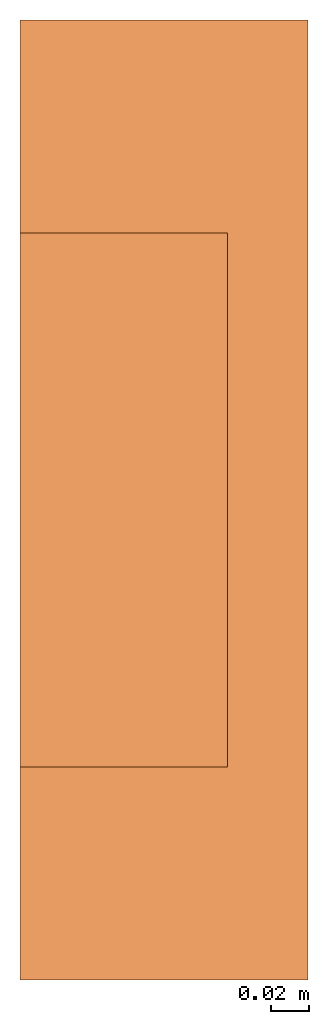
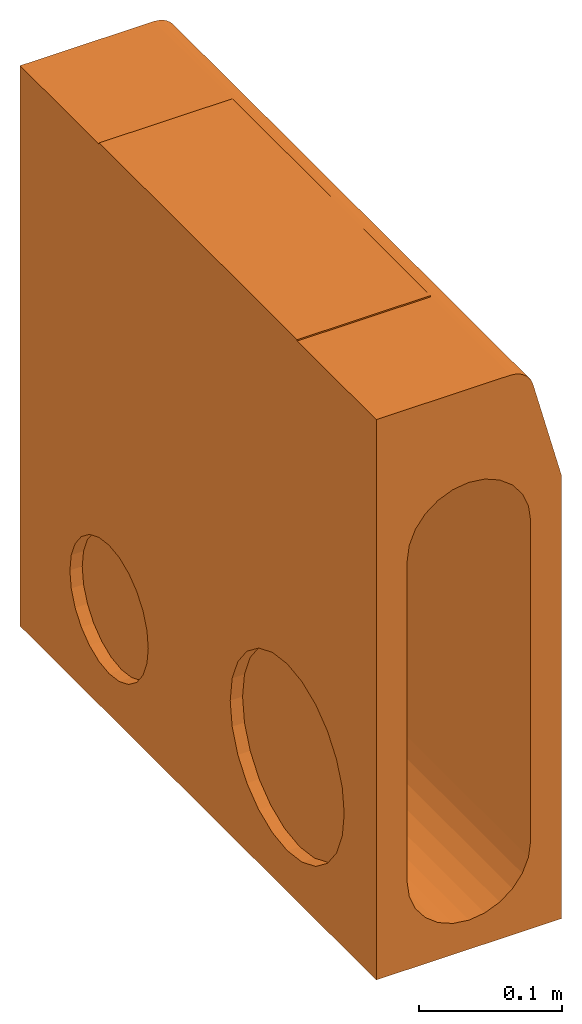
# One storey: 1 proxy.
"""IFC2X3 building model written with IfcOpenShell, lengths in millimetres."""

from ifc_helpers import new_model, entity, si_unit, converted_unit, direction, frame, origin, place, context, subcontext, project, spatial, faceted_brep, source, transform, mapped, material, material_list, element, save


model = new_model("IFC2X3")

# Units and contexts
model_context = context("Model", 3, precision=1e-06, world=origin(), true_north=direction((2.0, 6.12303176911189e-17, 1.0)))
context_of_model = context(None, 3, precision=1e-06, world=origin(), true_north=direction((2.0, 6.12303176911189e-17, 1.0)))
body_context = subcontext(model_context, "Body", "Model", "MODEL_VIEW")
ifc_project = project(units=[si_unit("LENGTHUNIT", "METRE", prefix="MILLI"), si_unit("AREAUNIT", "SQUARE_METRE", prefix="MILLI"), si_unit("VOLUMEUNIT", "CUBIC_METRE", prefix="MILLI"), converted_unit("PLANEANGLEUNIT", "DEGREE", entity("IfcRatioMeasure", 0.0174532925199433), si_unit("PLANEANGLEUNIT", "RADIAN"), dimensions=[0, 0, 0, 0, 0, 0, 0]), si_unit("TIMEUNIT", "SECOND")], contexts=[model_context, context_of_model])

# Site, building, storey
site_placement = place(None, origin())
site = spatial("IfcSite", under=ifc_project, at=site_placement, Name="Default", CompositionType="ELEMENT")
building_placement = place(site_placement, origin())
building = spatial("IfcBuilding", under=site, at=building_placement, CompositionType="ELEMENT")
storey_placement = place(building_placement, frame((0.0, 0.0, -300.0)))
storey = spatial("IfcBuildingStorey", under=building, at=storey_placement, Name="T.O. Fnd. Wall", CompositionType="ELEMENT", Elevation=-300.0)

# Proxy
ifc_material_1 = material(Name="ACO Polymer Concrete.")
ifc_material_2 = material(Name="Iron, Cast")
ifc_material_list = material_list([ifc_material_1, ifc_material_2])
shared_shape = source(origin(), body_context, "Body", "Brep", [
    faceted_brep([(65.1705684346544, 181.568542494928, -296.568542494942), (65.1705684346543, 194.282032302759, -280.0), (65.1705684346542, 202.274066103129, -260.70552360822), (65.1705684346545, 165.0, -309.282032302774), (65.1705684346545, 125.0, -320.0), (65.1705684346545, 145.705523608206, -317.274066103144), (65.1705684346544, 68.4314575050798, -296.568542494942), (65.1705684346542, 47.7259338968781, -260.70552360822), (65.1705684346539, 181.568542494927, -183.431457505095), (65.1705684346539, 55.7179676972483, -200.0), (65.1705684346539, 194.282032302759, -200.0), (65.170568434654, 202.274066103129, -219.294476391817), (65.1705684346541, 205.0, -240.0), (65.1705684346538, 165.0, -170.717967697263), (65.1705684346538, 145.705523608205, -162.725933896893), (65.1705684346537, 125.0, -160.0), (65.1705684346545, 85.0, -309.282032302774), (65.1705684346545, 104.294476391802, -317.274066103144), (65.1705684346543, 55.7179676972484, -280.0), (65.1705684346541, 45.0, -240.0), (65.170568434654, 47.7259338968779, -219.294476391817), (65.1705684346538, 104.294476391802, -162.725933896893), (65.1705684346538, 85.0, -170.717967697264), (65.1705684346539, 68.4314575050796, -183.431457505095), (-64.8294315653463, 181.568542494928, -183.431457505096), (-64.8294315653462, 194.282032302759, -200.0), (-64.8294315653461, 202.274066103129, -219.294476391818), (-64.8294315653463, 68.4314575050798, -183.431457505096), (-64.8294315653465, 125.0, -160.0), (-64.8294315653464, 145.705523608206, -162.725933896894), (-64.8294315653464, 165.0, -170.717967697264), (-64.8294315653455, 165.0, -309.282032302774), (-64.8294315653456, 68.4314575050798, -296.568542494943), (-64.8294315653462, 55.7179676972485, -200.0), (-64.8294315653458, 202.274066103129, -260.705523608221), (-64.8294315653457, 194.282032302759, -280.0), (-64.8294315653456, 181.568542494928, -296.568542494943), (-64.8294315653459, 205.0, -240.0), (-64.8294315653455, 145.705523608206, -317.274066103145), (-64.8294315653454, 125.0, -320.0), (-64.8294315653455, 104.294476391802, -317.274066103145), (-64.8294315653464, 85.0, -170.717967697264), (-64.8294315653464, 104.294476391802, -162.725933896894), (-64.8294315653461, 47.7259338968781, -219.294476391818), (-64.8294315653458, 47.7259338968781, -260.705523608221), (-64.8294315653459, 45.0, -240.0), (-64.8294315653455, 85.0, -309.282032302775), (-64.8294315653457, 55.7179676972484, -280.0), (-74.8294315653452, 0.0, -355.0), (-43.1307017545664, 0.0, -305.0), (-48.125722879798, 0.0, -292.940952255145), (-35.1847706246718, 0.0, -315.355339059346), (-49.8294315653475, 0.0, -280.0), (-49.8294315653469, 0.0, -5.0), (-74.8294315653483, 0.0, 125.0), (75.1705684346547, 0.0, -355.0), (13.1115206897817, 0.0, -328.296291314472), (0.170568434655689, 0.0, -330.0), (-24.8294315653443, 0.0, -323.301270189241), (-12.7703838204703, 0.0, -328.296291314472), (-48.1257228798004, 0.0, 7.94095225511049), (-43.1307017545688, 0.0, 20.0), (-35.1847706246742, 0.0, 30.3553390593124), (-24.8294315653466, 0.0, 38.3012701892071), (-12.7703838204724, 0.0, 43.2962913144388), (0.17056843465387, 0.0, 45.0), (33.7964364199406, 0.0, 125.0), (13.1115206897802, 0.0, 43.2962913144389), (52.1490271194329, 0.0, 110.917561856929), (35.5259074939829, 0.0, -315.355339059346), (25.1705684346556, 0.0, -323.30127018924), (43.4718386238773, 0.0, -305.0), (48.4668597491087, 0.0, -292.940952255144), (50.1705684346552, 0.0, -280.0), (75.1705684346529, 0.0, 25.0), (50.1705684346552, 0.0, -5.0), (48.4668597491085, 0.0, 7.94095225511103), (43.4718386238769, 0.0, 20.0), (43.2964364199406, 0.0, 122.454482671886), (38.7139982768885, 0.0, 124.352590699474), (47.231465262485, 0.0, 119.435028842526), (25.1705684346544, 0.0, 38.3012701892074), (35.5259074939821, 0.0, 30.3553390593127), (50.2509190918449, 0.0, 115.499999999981), (75.1705684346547, 500.0, -355.0), (48.4668597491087, 500.0, -292.940952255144), (50.1705684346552, 500.0, -280.0), (43.4718386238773, 500.0, -305.0), (75.1705684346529, 500.0, 25.0), (50.1705684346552, 500.0, -5.0), (25.1705684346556, 500.0, -323.30127018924), (35.5259074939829, 500.0, -315.355339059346), (48.4668597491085, 500.0, 7.94095225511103), (43.4718386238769, 500.0, 20.0), (13.1115206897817, 500.0, -328.296291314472), (50.2509190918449, 500.0, 115.499999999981), (52.1490271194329, 500.0, 110.917561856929), (33.7964364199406, 500.0, 125.0), (47.231465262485, 500.0, 119.435028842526), (35.5259074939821, 500.0, 30.3553390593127), (25.1705684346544, 500.0, 38.3012701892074), (13.1115206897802, 500.0, 43.2962913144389), (38.7139982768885, 500.0, 124.352590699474), (43.2964364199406, 500.0, 122.454482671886), (-12.7703838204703, 500.0, -328.296291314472), (0.170568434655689, 500.0, -330.0), (-74.8294315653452, 500.0, -355.0), (-24.8294315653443, 500.0, -323.301270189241), (-35.1847706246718, 500.0, -315.355339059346), (-43.1307017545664, 500.0, -305.0), (-48.125722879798, 500.0, -292.940952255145), (-49.8294315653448, 500.0, -280.0), (-49.8294315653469, 500.0, -5.0), (-74.8294315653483, 500.0, 125.0), (-12.7703838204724, 500.0, 43.2962913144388), (-24.8294315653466, 500.0, 38.3012701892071), (0.17056843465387, 500.0, 45.0), (-48.1257228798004, 500.0, 7.94095225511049), (-35.1847706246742, 500.0, 30.3553390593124), (-43.1307017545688, 500.0, 20.0), (-15.2350474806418, 196.874079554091, -355.0), (-1.0, 195.0, -355.0), (-28.5000000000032, 202.368602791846, -355.0), (-54.1259204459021, 235.764952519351, -355.0), (-48.6313972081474, 222.49999999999, -355.0), (-39.8908729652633, 211.10912703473, -355.0), (-56.0, 250.0, -355.0), (13.2350474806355, 196.874079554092, -355.0), (26.4999999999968, 202.368602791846, -355.0), (37.8908729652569, 211.10912703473, -355.0), (46.6313972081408, 222.49999999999, -355.0), (52.1259204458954, 235.764952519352, -355.0), (54.0, 250.0, -355.0), (-54.1259204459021, 264.235047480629, -355.0), (-48.6313972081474, 277.499999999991, -355.0), (-39.8908729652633, 288.890872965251, -355.0), (-28.5000000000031, 297.631397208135, -355.0), (-15.2350474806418, 303.125920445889, -355.0), (-1.0, 305.0, -355.0), (46.6313972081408, 277.49999999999, -355.0), (37.8908729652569, 288.89087296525, -355.0), (52.1259204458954, 264.235047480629, -355.0), (13.2350474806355, 303.125920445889, -355.0), (26.4999999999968, 297.631397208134, -355.0), (75.1705684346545, 85.0, -309.282032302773), (75.1705684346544, 68.4314575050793, -296.568542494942), (75.1705684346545, 104.294476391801, -317.274066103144), (75.1705684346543, 55.7179676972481, -280.0), (75.1705684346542, 47.7259338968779, -260.70552360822), (75.1705684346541, 45.0, -240.0), (75.170568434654, 47.7259338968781, -219.294476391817), (75.1705684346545, 125.0, -320.0), (75.1705684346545, 145.705523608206, -317.274066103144), (75.1705684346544, 181.568542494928, -296.568542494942), (75.1705684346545, 165.0, -309.282032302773), (75.1705684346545, 336.109127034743, -303.890872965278), (75.1705684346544, 327.368602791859, -292.500000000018), (75.1705684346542, 202.274066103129, -260.70552360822), (75.1705684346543, 194.282032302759, -280.0), (75.1705684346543, 321.874079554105, -279.235047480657), (75.1705684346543, 320.0, -265.0), (75.1705684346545, 347.500000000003, -312.631397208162), (75.1705684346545, 360.764952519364, -318.125920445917), (75.1705684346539, 55.7179676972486, -200.0), (75.1705684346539, 68.4314575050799, -183.431457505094), (75.1705684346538, 85.0, -170.717967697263), (75.1705684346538, 104.294476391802, -162.725933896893), (75.1705684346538, 125.0, -160.0), (75.170568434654, 202.274066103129, -219.294476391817), (75.1705684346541, 205.0, -240.0), (75.1705684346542, 321.874079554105, -250.764952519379), (75.1705684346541, 327.368602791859, -237.500000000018), (75.1705684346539, 194.282032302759, -200.0), (75.1705684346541, 336.109127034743, -226.109127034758), (75.170568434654, 347.500000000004, -217.368602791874), (75.1705684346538, 145.705523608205, -162.725933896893), (75.1705684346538, 165.0, -170.717967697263), (75.1705684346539, 181.568542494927, -183.431457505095), (75.170568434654, 360.764952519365, -211.87407955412), (75.1705684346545, 375.0, -320.0), (75.1705684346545, 389.235047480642, -318.125920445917), (75.1705684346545, 402.500000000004, -312.631397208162), (75.1705684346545, 413.890872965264, -303.890872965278), (75.1705684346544, 422.631397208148, -292.500000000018), (75.1705684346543, 430.0, -265.0), (75.1705684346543, 428.125920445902, -279.235047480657), (75.1705684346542, 428.125920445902, -250.76495251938), (75.1705684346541, 422.631397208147, -237.500000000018), (75.1705684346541, 413.890872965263, -226.109127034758), (75.170568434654, 375.0, -210.0), (75.170568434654, 389.235047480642, -211.87407955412), (75.170568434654, 402.500000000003, -217.368602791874), (33.7964364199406, 152.199845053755, 125.0), (-74.8294315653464, 104.294476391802, -162.725933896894), (-74.8294315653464, 85.0, -170.717967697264), (-74.8294315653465, 125.0, -160.0), (-74.8294315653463, 68.4314575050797, -183.431457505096), (-74.8294315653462, 55.7179676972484, -200.0), (-74.8294315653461, 47.7259338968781, -219.294476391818), (-74.8294315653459, 45.0, -240.0), (-74.8294315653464, 145.705523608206, -162.725933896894), (-74.8294315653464, 165.0, -170.717967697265), (-74.8294315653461, 347.500000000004, -217.368602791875), (-74.8294315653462, 194.282032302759, -200.0), (-74.8294315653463, 181.568542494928, -183.431457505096), (-74.8294315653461, 360.764952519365, -211.87407955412), (-74.8294315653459, 205.0, -240.0), (-74.8294315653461, 202.274066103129, -219.294476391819), (-74.8294315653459, 321.874079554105, -250.76495251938), (-74.8294315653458, 320.0, -265.0), (-74.829431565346, 336.109127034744, -226.109127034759), (-74.8294315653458, 47.7259338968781, -260.705523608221), (-74.8294315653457, 55.7179676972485, -280.0), (-74.8294315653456, 68.4314575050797, -296.568542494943), (-74.8294315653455, 85.0, -309.282032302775), (-74.8294315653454, 104.294476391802, -317.274066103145), (-74.8294315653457, 194.282032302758, -280.0), (-74.8294315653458, 202.274066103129, -260.705523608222), (-74.8294315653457, 321.874079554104, -279.235047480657), (-74.8294315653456, 327.368602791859, -292.500000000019), (-74.8294315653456, 181.568542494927, -296.568542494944), (-74.8294315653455, 336.109127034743, -303.890872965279), (-74.8294315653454, 125.0, -320.0), (-74.8294315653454, 145.705523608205, -317.274066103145), (-74.8294315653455, 165.0, -309.282032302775), (-74.8294315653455, 347.500000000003, -312.631397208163), (-74.8294315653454, 360.764952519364, -318.125920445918), (-74.829431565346, 327.36860279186, -237.500000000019), (-74.8294315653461, 375.0, -210.0), (-74.8294315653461, 389.235047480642, -211.874079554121), (-74.8294315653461, 402.500000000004, -217.368602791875), (-74.829431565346, 413.890872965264, -226.109127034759), (-74.8294315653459, 428.125920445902, -250.764952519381), (-74.829431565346, 422.631397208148, -237.50000000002), (-74.8294315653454, 375.0, -320.0), (-74.8294315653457, 428.125920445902, -279.235047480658), (-74.8294315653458, 430.0, -265.0), (-74.8294315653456, 422.631397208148, -292.500000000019), (-74.8294315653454, 389.235047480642, -318.125920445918), (-74.8294315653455, 402.500000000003, -312.631397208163), (-74.8294315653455, 413.890872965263, -303.890872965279), (52.1490271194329, 423.900064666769, 110.917561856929), (45.3629035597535, 383.807890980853, 121.073713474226), (48.8701498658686, 348.576324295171, 117.566467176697), (50.8400506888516, 104.875634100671, 114.397333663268), (48.8701498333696, 151.423670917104, 117.566467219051), (41.0674216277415, 348.576326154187, 123.553711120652), (37.1954799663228, 364.149902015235, 124.693488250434), (37.8149788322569, 238.971100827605, 124.570172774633), (50.6937705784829, 238.971095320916, 114.687928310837), (52.1490271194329, 304.399745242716, 110.917561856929), (50.97322225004, 364.149900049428, 114.121454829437), (45.3629035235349, 116.192108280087, 121.073713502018), (48.1657221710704, 249.999998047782, 118.430753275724), (42.0845772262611, 250.0, 123.096979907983), (45.3629035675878, 249.999999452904, 121.073713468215), (33.7964364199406, 423.90007747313, 125.0), (52.1490271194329, 152.19987262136, 110.917561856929), (41.0674215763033, 151.423674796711, 123.553711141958), (33.7964364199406, 304.399690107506, 125.0), (37.4964258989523, 104.875635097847, 124.636257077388), (65.1705684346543, 428.125920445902, -279.235047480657), (65.1705684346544, 336.109127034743, -303.890872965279), (65.1705684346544, 422.631397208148, -292.500000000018), (65.1705684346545, 402.500000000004, -312.631397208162), (65.1705684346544, 413.890872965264, -303.890872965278), (65.1705684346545, 375.0, -320.0), (65.1705684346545, 389.235047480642, -318.125920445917), (65.1705684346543, 430.0, -265.0), (65.1705684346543, 320.0, -265.0), (65.1705684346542, 428.125920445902, -250.76495251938), (65.1705684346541, 422.631397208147, -237.500000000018), (65.1705684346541, 413.890872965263, -226.109127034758), (65.170568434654, 402.500000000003, -217.368602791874), (65.170568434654, 375.0, -210.0), (65.170568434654, 389.235047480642, -211.87407955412), (65.1705684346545, 347.500000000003, -312.631397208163), (65.1705684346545, 360.764952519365, -318.125920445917), (65.1705684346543, 321.874079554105, -279.235047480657), (65.1705684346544, 327.368602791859, -292.500000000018), (65.170568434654, 347.500000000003, -217.368602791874), (65.170568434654, 360.764952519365, -211.87407955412), (65.1705684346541, 336.109127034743, -226.109127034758), (65.1705684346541, 327.368602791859, -237.500000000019), (65.1705684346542, 321.874079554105, -250.76495251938), (-64.829431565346, 422.631397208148, -237.500000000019), (-64.8294315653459, 428.125920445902, -250.764952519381), (-64.8294315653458, 430.0, -265.0), (-64.829431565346, 413.890872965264, -226.109127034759), (-64.8294315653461, 375.0, -210.0), (-64.8294315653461, 389.235047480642, -211.874079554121), (-64.8294315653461, 402.500000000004, -217.368602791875), (-64.8294315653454, 375.0, -320.0), (-64.8294315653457, 428.125920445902, -279.235047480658), (-64.8294315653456, 422.631397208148, -292.500000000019), (-64.8294315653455, 413.890872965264, -303.890872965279), (-64.8294315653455, 402.500000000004, -312.631397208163), (-64.8294315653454, 389.235047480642, -318.125920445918), (-64.8294315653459, 321.874079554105, -250.764952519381), (-64.8294315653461, 347.500000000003, -217.368602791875), (-64.8294315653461, 360.764952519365, -211.874079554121), (-64.8294315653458, 320.0, -265.0), (-64.829431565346, 327.368602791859, -237.500000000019), (-64.829431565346, 336.109127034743, -226.109127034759), (-64.8294315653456, 327.368602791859, -292.500000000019), (-64.8294315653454, 360.764952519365, -318.125920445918), (-64.8294315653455, 347.500000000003, -312.631397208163), (-64.8294315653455, 336.109127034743, -303.890872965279), (-64.8294315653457, 321.874079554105, -279.235047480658), (-15.2350474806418, 303.125920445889, -345.0), (-1.0, 305.0, -345.0), (-28.5000000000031, 297.631397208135, -345.0), (-39.8908729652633, 288.890872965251, -345.0), (46.6313972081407, 222.49999999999, -345.0), (-48.6313972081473, 277.499999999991, -345.0), (-56.0, 250.0, -345.0), (-54.125920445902, 264.235047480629, -345.0), (26.4999999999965, 202.368602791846, -345.0), (46.6313972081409, 277.49999999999, -345.0), (13.2350474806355, 303.125920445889, -345.0), (26.4999999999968, 297.631397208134, -345.0), (37.8908729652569, 288.89087296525, -345.0), (52.1259204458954, 264.235047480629, -345.0), (54.0, 250.0, -345.0), (-48.6313972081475, 222.49999999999, -345.0), (-54.1259204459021, 235.764952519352, -345.0), (-28.5000000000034, 202.368602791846, -345.0), (-39.8908729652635, 211.10912703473, -345.0), (-15.2350474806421, 196.874079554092, -345.0), (13.2350474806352, 196.874079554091, -345.0), (-1.0, 195.0, -345.0), (52.1259204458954, 235.764952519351, -345.0), (37.8908729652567, 211.10912703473, -345.0)], [[[0, 1, 2, 3]], [[4, 5, 3, 6]], [[6, 3, 2, 7]], [[2, 8, 9, 7]], [[10, 8, 11]], [[2, 12, 11, 8]], [[13, 14, 15, 8]], [[4, 6, 16, 17]], [[18, 6, 7]], [[19, 7, 9, 20]], [[15, 21, 22, 9]], [[23, 9, 22]], [[15, 9, 8]], [[24, 25, 26, 27]], [[28, 29, 30, 24]], [[26, 31, 32, 33]], [[31, 34, 35, 36]], [[26, 37, 34, 31]], [[31, 38, 39, 40]], [[24, 27, 28]], [[27, 41, 42, 28]], [[33, 27, 26]], [[43, 33, 44, 45]], [[40, 46, 32, 31]], [[32, 47, 44, 33]], [[48, 49, 50]], [[49, 48, 51]], [[50, 52, 48]], [[48, 52, 53, 54]], [[55, 56, 57]], [[58, 51, 48]], [[59, 58, 48]], [[57, 59, 48, 55]], [[53, 60, 54]], [[54, 61, 62]], [[61, 54, 60]], [[62, 63, 54]], [[64, 65, 66, 54]], [[63, 64, 54]], [[66, 65, 67, 68]], [[69, 70, 55]], [[69, 55, 71]], [[72, 55, 73]], [[55, 72, 71]], [[74, 75, 73, 55]], [[76, 75, 74]], [[70, 56, 55]], [[77, 76, 74]], [[78, 79, 66, 80]], [[68, 81, 82, 74]], [[68, 67, 81]], [[66, 68, 83, 80]], [[82, 77, 74]], [[84, 85, 86]], [[85, 84, 87]], [[88, 84, 86, 89]], [[90, 91, 84]], [[92, 93, 88]], [[91, 87, 84]], [[84, 94, 90]], [[89, 92, 88]], [[95, 96, 97, 98]], [[96, 88, 99, 100]], [[101, 97, 96, 100]], [[97, 102, 103, 98]], [[88, 93, 99]], [[104, 105, 106]], [[104, 106, 107]], [[105, 94, 84, 106]], [[108, 106, 109]], [[106, 108, 107]], [[110, 109, 106]], [[111, 110, 106]], [[112, 111, 106, 113]], [[113, 97, 114, 115]], [[114, 97, 116]], [[117, 112, 113]], [[118, 119, 113]], [[113, 119, 117]], [[118, 113, 115]], [[116, 97, 101]], [[48, 120, 121, 55]], [[120, 48, 122]], [[123, 124, 48]], [[125, 122, 48]], [[124, 125, 48]], [[48, 126, 123]], [[55, 127, 128]], [[127, 55, 121]], [[55, 128, 129]], [[129, 130, 55]], [[131, 132, 55]], [[130, 131, 55]], [[55, 132, 84]], [[133, 126, 106]], [[134, 133, 106]], [[135, 106, 136]], [[106, 135, 134]], [[137, 136, 106]], [[138, 137, 106, 84]], [[126, 48, 106]], [[139, 140, 84]], [[141, 139, 84]], [[142, 138, 84]], [[143, 84, 140]], [[84, 143, 142]], [[141, 84, 132]], [[55, 144, 145]], [[144, 55, 146]], [[55, 145, 147]], [[148, 149, 55]], [[147, 148, 55]], [[55, 149, 150, 74]], [[151, 146, 55]], [[152, 151, 55, 84]], [[153, 154, 155, 156]], [[157, 158, 159, 160]], [[158, 153, 156, 159]], [[161, 154, 152, 162]], [[163, 164, 74]], [[150, 163, 74]], [[74, 165, 166]], [[165, 74, 164]], [[74, 166, 167]], [[168, 169, 170, 171]], [[172, 168, 173, 174]], [[74, 167, 175, 88]], [[88, 175, 176]], [[177, 172, 174, 178]], [[88, 176, 177, 178]], [[169, 157, 160, 170]], [[84, 179, 162, 152]], [[161, 155, 154]], [[180, 84, 181]], [[84, 180, 179]], [[181, 84, 182]], [[183, 182, 84]], [[184, 185, 84]], [[183, 84, 185]], [[186, 184, 84, 88]], [[187, 186, 88]], [[188, 187, 88]], [[189, 190, 88]], [[191, 88, 190]], [[88, 191, 188]], [[189, 88, 178]], [[173, 168, 171]], [[113, 54, 66, 192]], [[54, 193, 194]], [[193, 54, 195]], [[54, 194, 196]], [[197, 198, 54]], [[196, 197, 54]], [[48, 54, 198, 199]], [[200, 195, 54, 113]], [[113, 201, 200]], [[202, 203, 204, 205]], [[206, 207, 208, 209]], [[210, 207, 203, 202]], [[205, 204, 201, 113]], [[211, 212, 48]], [[199, 211, 48]], [[48, 213, 214]], [[213, 48, 212]], [[48, 214, 215]], [[216, 217, 218, 219]], [[220, 216, 219, 221]], [[215, 222, 48]], [[223, 224, 225, 226]], [[48, 222, 223, 106]], [[224, 220, 221, 225]], [[217, 206, 209, 218]], [[227, 208, 207]], [[227, 207, 210]], [[228, 113, 229]], [[113, 228, 205]], [[229, 113, 230]], [[231, 230, 113]], [[106, 232, 233, 113]], [[231, 113, 233]], [[226, 234, 106, 223]], [[235, 236, 106]], [[237, 235, 106]], [[238, 239, 106]], [[240, 106, 239]], [[106, 240, 237]], [[238, 106, 234]], [[236, 232, 106]], [[96, 241, 74, 88]], [[98, 242, 243]], [[83, 244, 245]], [[246, 247, 248]], [[249, 250, 251]], [[95, 98, 243]], [[251, 95, 243]], [[252, 245, 253]], [[103, 102, 246]], [[98, 103, 242]], [[83, 245, 80]], [[254, 242, 246]], [[95, 241, 96]], [[255, 252, 253, 242]], [[102, 97, 256]], [[68, 257, 244]], [[78, 258, 79]], [[247, 256, 259]], [[252, 258, 78]], [[258, 260, 79]], [[78, 80, 252]], [[255, 242, 254, 252]], [[192, 260, 248]], [[257, 250, 249]], [[246, 242, 103]], [[79, 260, 66]], [[245, 252, 80]], [[95, 251, 241]], [[250, 241, 251]], [[243, 253, 249]], [[243, 249, 251]], [[249, 245, 244]], [[248, 247, 259]], [[256, 247, 102]], [[102, 247, 246]], [[192, 248, 259]], [[248, 258, 254]], [[248, 254, 246]], [[252, 254, 258]], [[68, 244, 83]], [[249, 244, 257]], [[249, 253, 245]], [[242, 253, 243]], [[248, 260, 258]], [[66, 260, 192]], [[71, 72, 85, 87]], [[69, 71, 87, 91]], [[56, 70, 90, 94]], [[70, 69, 91, 90]], [[57, 56, 94, 105]], [[72, 73, 86, 85]], [[58, 59, 104, 107]], [[51, 58, 107, 108]], [[50, 49, 109, 110]], [[49, 51, 108, 109]], [[52, 50, 110, 111]], [[105, 104, 59, 57]], [[112, 53, 52, 111]], [[61, 60, 117, 119]], [[62, 61, 119, 118]], [[64, 63, 115, 114]], [[63, 62, 118, 115]], [[65, 64, 114, 116]], [[60, 53, 112, 117]], [[81, 67, 101, 100]], [[82, 81, 100, 99]], [[76, 77, 93, 92]], [[77, 82, 99, 93]], [[75, 76, 92, 89]], [[116, 101, 67, 65]], [[86, 73, 75, 89]], [[261, 262, 263]], [[264, 265, 263, 262]], [[266, 267, 264, 262]], [[261, 268, 269, 262]], [[268, 270, 271, 272]], [[268, 272, 273, 274]], [[275, 274, 273]], [[262, 276, 277, 266]], [[262, 269, 278, 279]], [[268, 280, 269]], [[274, 281, 280, 268]], [[280, 282, 283, 269]], [[269, 283, 284]], [[275, 190, 189, 274]], [[273, 191, 190, 275]], [[271, 187, 188, 272]], [[272, 188, 191, 273]], [[270, 186, 187, 271]], [[186, 270, 268, 184]], [[261, 185, 184, 268]], [[263, 183, 185, 261]], [[264, 181, 182, 265]], [[265, 182, 183, 263]], [[267, 180, 181, 264]], [[180, 267, 266, 179]], [[277, 162, 179, 266]], [[276, 161, 162, 277]], [[279, 156, 155, 262]], [[262, 155, 161, 276]], [[278, 159, 156, 279]], [[159, 278, 269, 160]], [[284, 170, 160, 269]], [[283, 171, 170, 284]], [[280, 174, 173, 282]], [[282, 173, 171, 283]], [[281, 178, 174, 280]], [[178, 281, 274, 189]], [[14, 175, 167, 15]], [[13, 176, 175, 14]], [[10, 172, 177, 8]], [[8, 177, 176, 13]], [[11, 168, 172, 10]], [[168, 11, 12, 169]], [[2, 157, 169, 12]], [[1, 158, 157, 2]], [[3, 154, 153, 0]], [[0, 153, 158, 1]], [[5, 152, 154, 3]], [[152, 5, 4, 151]], [[17, 146, 151, 4]], [[16, 144, 146, 17]], [[18, 147, 145, 6]], [[6, 145, 144, 16]], [[7, 148, 147, 18]], [[148, 7, 19, 149]], [[20, 150, 149, 19]], [[9, 163, 150, 20]], [[22, 165, 164, 23]], [[23, 164, 163, 9]], [[21, 166, 165, 22]], [[21, 15, 167, 166]], [[285, 286, 287, 288]], [[289, 290, 291, 288]], [[289, 288, 287, 292]], [[287, 293, 294, 295]], [[295, 296, 292, 287]], [[297, 292, 296]], [[298, 299, 300, 301]], [[302, 303, 299, 298]], [[304, 301, 300, 292]], [[305, 306, 304, 292]], [[307, 304, 306]], [[304, 308, 301]], [[289, 292, 300]], [[300, 205, 228, 289]], [[299, 202, 205, 300]], [[302, 227, 210, 303]], [[303, 210, 202, 299]], [[298, 208, 227, 302]], [[208, 298, 301, 209]], [[308, 218, 209, 301]], [[304, 219, 218, 308]], [[306, 225, 221, 307]], [[307, 221, 219, 304]], [[305, 226, 225, 306]], [[226, 305, 292, 234]], [[297, 238, 234, 292]], [[296, 239, 238, 297]], [[294, 237, 240, 295]], [[295, 240, 239, 296]], [[293, 235, 237, 294]], [[235, 293, 287, 236]], [[286, 232, 236, 287]], [[285, 233, 232, 286]], [[291, 230, 231, 288]], [[288, 231, 233, 285]], [[290, 229, 230, 291]], [[229, 290, 289, 228]], [[38, 223, 222, 39]], [[31, 224, 223, 38]], [[35, 216, 220, 36]], [[36, 220, 224, 31]], [[34, 217, 216, 35]], [[217, 34, 37, 206]], [[26, 207, 206, 37]], [[25, 203, 207, 26]], [[30, 201, 204, 24]], [[24, 204, 203, 25]], [[29, 200, 201, 30]], [[200, 29, 28, 195]], [[42, 193, 195, 28]], [[41, 194, 193, 42]], [[33, 197, 196, 27]], [[27, 196, 194, 41]], [[43, 198, 197, 33]], [[198, 43, 45, 199]], [[44, 211, 199, 45]], [[47, 212, 211, 44]], [[46, 214, 213, 32]], [[32, 213, 212, 47]], [[40, 215, 214, 46]], [[215, 40, 39, 222]], [[309, 310, 311]], [[312, 311, 313, 314]], [[315, 316, 314, 317]], [[318, 313, 311, 310]], [[319, 320, 318, 310]], [[321, 318, 320]], [[322, 323, 318]], [[324, 325, 317, 326]], [[327, 324, 326]], [[328, 326, 329, 330]], [[323, 331, 313, 318]], [[313, 332, 317, 314]], [[317, 329, 326]], [[317, 325, 315]], [[322, 141, 132, 323]], [[318, 139, 141, 322]], [[320, 143, 140, 321]], [[321, 140, 139, 318]], [[319, 142, 143, 320]], [[142, 319, 310, 138]], [[309, 137, 138, 310]], [[311, 136, 137, 309]], [[314, 134, 135, 312]], [[312, 135, 136, 311]], [[316, 133, 134, 314]], [[133, 316, 315, 126]], [[325, 123, 126, 315]], [[324, 124, 123, 325]], [[326, 122, 125, 327]], [[327, 125, 124, 324]], [[328, 120, 122, 326]], [[120, 328, 330, 121]], [[329, 127, 121, 330]], [[317, 128, 127, 329]], [[313, 130, 129, 332]], [[332, 129, 128, 317]], [[331, 131, 130, 313]], [[131, 331, 323, 132]], [[113, 192, 259, 256]], [[113, 256, 97]], [[74, 241, 250, 257]], [[74, 257, 68]]]),
    faceted_brep([(-74.8294315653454, 111.0, 126.144067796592), (-74.8294315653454, 111.0, 123.263731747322), (-30.1461453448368, 111.0, 126.144067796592), (33.1705684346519, 111.0, 123.263731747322), (33.1705684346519, 111.0, 126.144067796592), (33.1705684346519, 389.0, 126.144067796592), (33.1705684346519, 389.0, 123.263731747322), (-30.1461453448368, 389.0, 126.144067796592), (-74.8294315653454, 389.0, 123.263731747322), (-74.8294315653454, 389.0, 126.144067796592)], [[[0, 1, 2]], [[3, 4, 2, 1]], [[5, 6, 7]], [[8, 9, 7, 6]], [[8, 6, 3, 1]], [[9, 8, 1, 0]], [[6, 5, 4, 3]], [[7, 9, 0, 2]], [[4, 5, 7, 2]]]),
])
proxy_placement = place(storey_placement, frame((-5682.99544306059, -10247.1166238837, 300.0)))
element("IfcBuildingElementProxy", 1, at=proxy_placement, inside=storey, material=ifc_material_list, Name="Civil-Drainage-Channel-ACO-KerbDrain-HB480(amar):4927 - Access Unit - 500mm LG:4927 - Access Unit - 500mm LG", ObjectType="4927 - Access Unit - 500mm LG", CompositionType="ELEMENT", context=body_context, shape_type="MappedRepresentation", body=[
    mapped(shared_shape, transform((0.0, 0.0, 0.0), scale=1.0)),
])

save(model, "model.ifc")
